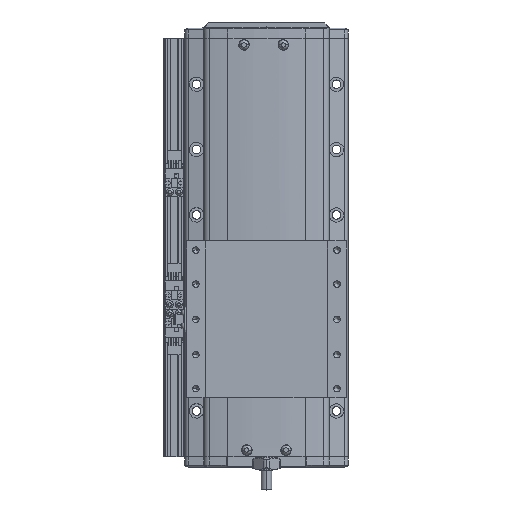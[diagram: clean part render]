
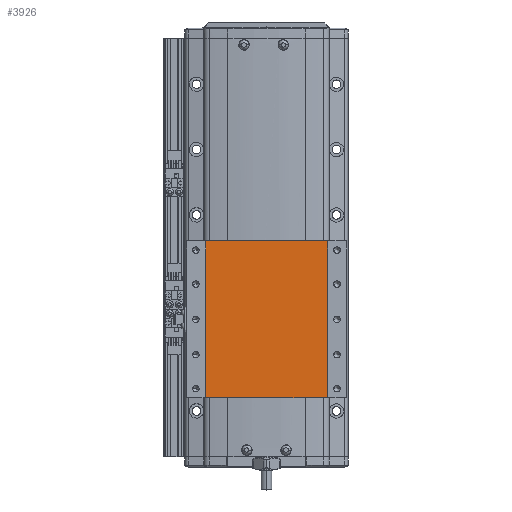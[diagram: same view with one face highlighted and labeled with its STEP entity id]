
A CAD part, top view. The second image highlights one B-rep face of the part: STEP entity #3926.
In plain terms, the highlighted planar face has unit normal (0, 0, 1).
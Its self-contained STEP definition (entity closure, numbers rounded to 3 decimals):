
#3926=ADVANCED_FACE('',(#9331),#9332,.F.);
#9331=FACE_OUTER_BOUND('',#16837,.T.);
#9332=PLANE('',#16838);
#16837=EDGE_LOOP('',(#28814,#28815,#28816,#28817));
#16838=AXIS2_PLACEMENT_3D('',#28818,#28819,#28820);
#28814=ORIENTED_EDGE('',*,*,#47446,.F.);
#28815=ORIENTED_EDGE('',*,*,#46428,.F.);
#28816=ORIENTED_EDGE('',*,*,#47447,.F.);
#28817=ORIENTED_EDGE('',*,*,#47448,.T.);
#28818=CARTESIAN_POINT('',(-300.,17.222,36.5));
#28819=DIRECTION('',(0.,0.,-1.0));
#28820=DIRECTION('',(-1.0,0.,0.));
#46428=EDGE_CURVE('',#56432,#56428,#56434,.T.);
#47446=EDGE_CURVE('',#56428,#58073,#58074,.T.);
#47447=EDGE_CURVE('',#58075,#56432,#58076,.T.);
#47448=EDGE_CURVE('',#58075,#58073,#58077,.T.);
#56428=VERTEX_POINT('',#70515);
#56432=VERTEX_POINT('',#70520);
#56434=LINE('',#70522,#70523);
#58073=VERTEX_POINT('',#72803);
#58074=LINE('',#72804,#72805);
#58075=VERTEX_POINT('',#72806);
#58076=LINE('',#72807,#72808);
#58077=LINE('',#72809,#72810);
#70515=CARTESIAN_POINT('',(-346.376,137.222,36.5));
#70520=CARTESIAN_POINT('',(-346.376,17.222,36.5));
#70522=CARTESIAN_POINT('',(-346.376,17.222,36.5));
#70523=VECTOR('',#85141,10.0);
#72803=CARTESIAN_POINT('',(-253.624,137.222,36.5));
#72804=CARTESIAN_POINT('',(-253.624,137.222,36.5));
#72805=VECTOR('',#86360,10.0);
#72806=CARTESIAN_POINT('',(-253.624,17.222,36.5));
#72807=CARTESIAN_POINT('',(-253.624,17.222,36.5));
#72808=VECTOR('',#86361,10.0);
#72809=CARTESIAN_POINT('',(-253.624,17.222,36.5));
#72810=VECTOR('',#86362,10.0);
#85141=DIRECTION('',(0.,1.0,0.));
#86360=DIRECTION('',(1.0,0.,0.));
#86361=DIRECTION('',(-1.0,0.,0.));
#86362=DIRECTION('',(0.,1.0,0.));
